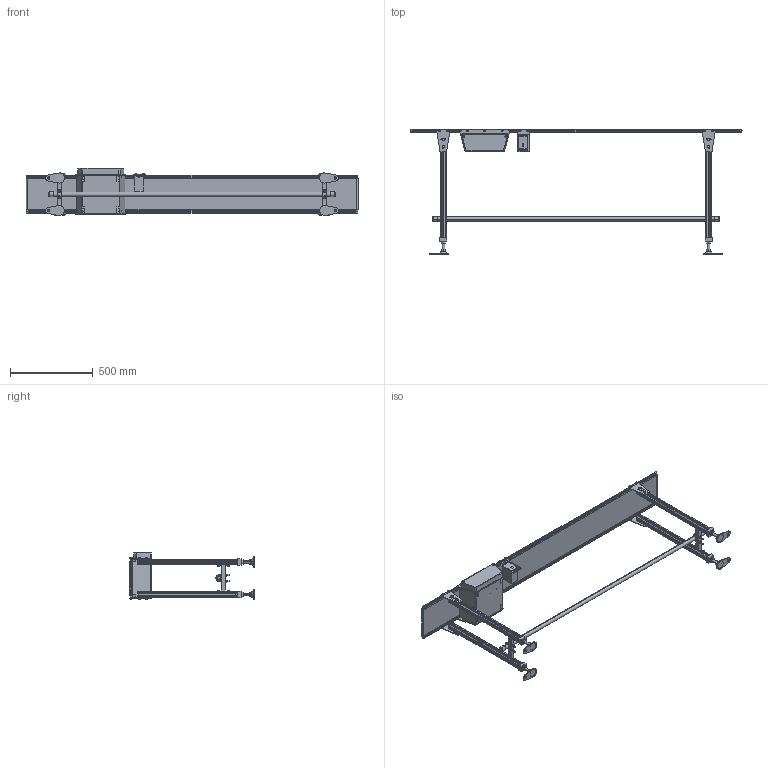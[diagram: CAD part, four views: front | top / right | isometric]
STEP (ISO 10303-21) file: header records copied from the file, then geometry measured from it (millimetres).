
FILE_DESCRIPTION( (''), '2;1');
FILE_NAME ('MMX0-304-200-200-K-180-O.stp','2025-02-17T11:58:58',(''),(''),'spGate 20.6.2 (****-****-****-****)','','');
FILE_SCHEMA (('AUTOMOTIVE_DESIGN'));
Length unit declared in the file: millimetre
Products named in the file (43): NewModel; MMX0-200-2000; TEMP_X_T-prt0; TEMP_X_T-prt1; TEMP_X_T-prt2; TEMP_X_T-prt3; TEMP_X_T-prt4; TEMP_X_T-prt5; TEMP_X_T-prt6; TEMP_X_T-prt7; TEMP_X_T-prt8; TEMP_X_T-prt9; TEMP_X_T-prt10; TEMP_X_T-prt11; TEMP_X_T-prt12; TEMP_X_T-prt13; TEMP_X_T-prt14; TEMP_X_T-prt15; TEMP_X_T-prt16; TEMP_X_T-prt17; TEMP_X_T-prt18; TEMP_X_T-prt19; TEMP_X_T-prt20; TEMP_X_T-prt21; TEMP_X_T-prt22; TEMP_X_T-prt23; TEMP_X_T-prt24; TEMP_X_T-prt25; TEMP_X_T-prt26; TEMP_X_T-prt27; TEMP_X_T-prt28; TEMP_X_T-prt29; TEMP_X_T-prt30; TEMP_X_T-prt31; TEMP_X_T-prt32; TEMP_X_T-prt33; TEMP_X_T-prt34; TEMP_X_T-prt35; TEMP_X_T-prt36; TEMP_X_T-prt37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
Assembly tree (42 placements, depth 3):
  NewModel
    MMX0-200-2000
      TEMP_X_T-prt0
      TEMP_X_T-prt1
      TEMP_X_T-prt2
      TEMP_X_T-prt3
      TEMP_X_T-prt4
      TEMP_X_T-prt5
      TEMP_X_T-prt6
      TEMP_X_T-prt7
      TEMP_X_T-prt8
      TEMP_X_T-prt9
      TEMP_X_T-prt10
      TEMP_X_T-prt11
      TEMP_X_T-prt12
      TEMP_X_T-prt13
      TEMP_X_T-prt14
      TEMP_X_T-prt15
      TEMP_X_T-prt16
      TEMP_X_T-prt17
      TEMP_X_T-prt18
      TEMP_X_T-prt19
      TEMP_X_T-prt20
      TEMP_X_T-prt21
      TEMP_X_T-prt22
      TEMP_X_T-prt23
      TEMP_X_T-prt24
      TEMP_X_T-prt25
      TEMP_X_T-prt26
      TEMP_X_T-prt27
      TEMP_X_T-prt28
      TEMP_X_T-prt29
      TEMP_X_T-prt30
      TEMP_X_T-prt31
      TEMP_X_T-prt32
      TEMP_X_T-prt33
      TEMP_X_T-prt34
      TEMP_X_T-prt35
      TEMP_X_T-prt36
      TEMP_X_T-prt37
      TEMP_X_T-prt38
      TEMP_X_T-prt39
      TEMP_X_T-prt40
Bounding box: 2002.4 x 752.2 x 284 mm (x, y, z)
Volume: 8932921.6 mm3; surface area: 4101815.2 mm2
Topology: 41 solids, 41 shells, 1923 faces, 4827 edges, 3051 vertices
Faces by surface type: plane 1293, cylinder 427, bspline 203
Entity records: 98180 total; most frequent: CARTESIAN_POINT 13019, ORIENTED_EDGE 9598, DIRECTION 9059, COLOUR_RGB 6763, PRESENTATION_STYLE_ASSIGNMENT 6763, STYLED_ITEM 6763, EDGE_CURVE 4799, DRAUGHTING_PRE_DEFINED_CURVE_FONT 4799
